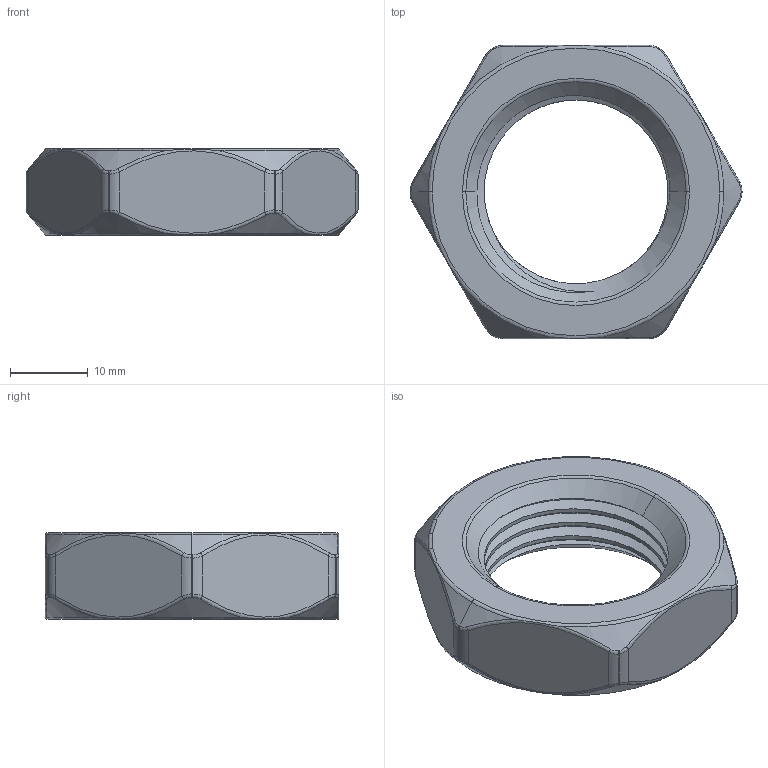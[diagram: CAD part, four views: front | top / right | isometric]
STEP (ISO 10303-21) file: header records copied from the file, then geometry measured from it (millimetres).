
FILE_DESCRIPTION (( 'STEP AP214' ), '1' );
FILE_NAME ('Spindle Nut 1in.STEP', '2025-11-04T14:37:07', ( '' ), ( '' ), 'SwSTEP 2.0', 'SolidWorks 2023', '' );
FILE_SCHEMA (( 'AUTOMOTIVE_DESIGN' ));
Length unit declared in the file: inch
Products named in the file (1): Spindle Nut 1in
Bounding box: 42.67 x 37.73 x 11.18 mm (x, y, z)
Volume: 7819.8 mm3; surface area: 3804 mm2
Topology: 1 solids, 1 shells, 113 faces, 278 edges, 167 vertices
Faces by surface type: bspline 39, cylinder 26, torus 22, cone 18, plane 8
Entity records: 5995 total; most frequent: CARTESIAN_POINT 3628, ORIENTED_EDGE 556, DIRECTION 425, EDGE_CURVE 278, AXIS2_PLACEMENT_3D 194, VERTEX_POINT 167, CIRCLE 119, EDGE_LOOP 115
